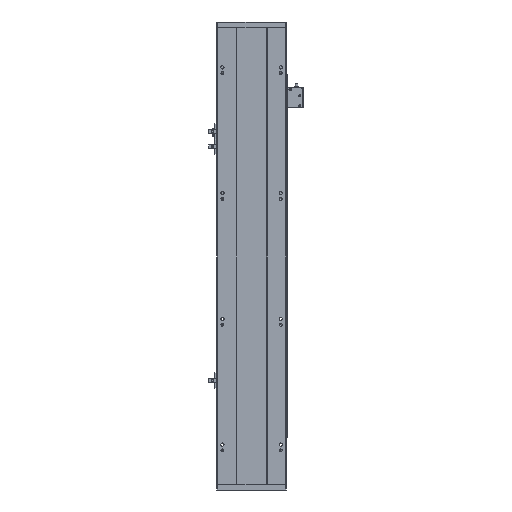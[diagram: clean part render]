
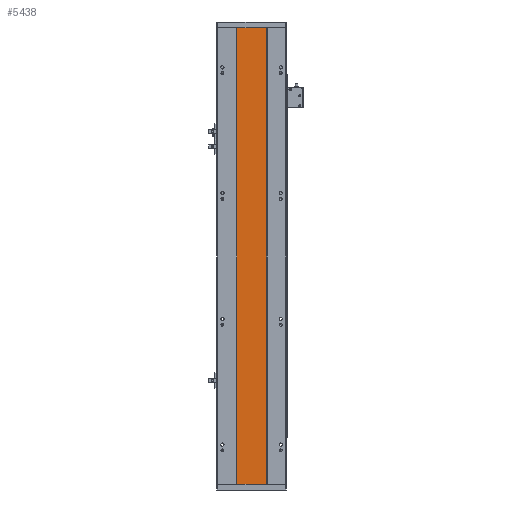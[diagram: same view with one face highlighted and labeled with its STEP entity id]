
A CAD part, front view. The second image highlights one B-rep face of the part: STEP entity #5438.
In plain terms, the highlighted planar face has unit normal (0, -1, 0).
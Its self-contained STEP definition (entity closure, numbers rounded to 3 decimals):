
#1949 = CARTESIAN_POINT ( 'NONE',  ( 133.07, 115.96, 784. ) ) ;
#2819 = CARTESIAN_POINT ( 'NONE',  ( 133.07, 115.96, 0. ) ) ;
#3168 = ORIENTED_EDGE ( 'NONE', *, *, #21043, .F. ) ;
#3393 = ORIENTED_EDGE ( 'NONE', *, *, #18414, .T. ) ;
#4606 = ORIENTED_EDGE ( 'NONE', *, *, #15097, .F. ) ;
#5438 = ADVANCED_FACE ( 'NONE', ( #7348 ), #17131, .F. ) ;
#5482 = DIRECTION ( 'NONE',  ( 1., 0., 0. ) ) ;
#5574 = DIRECTION ( 'NONE',  ( -1., 0., 0. ) ) ;
#5808 = DIRECTION ( 'NONE',  ( 1., 0., 0. ) ) ;
#6454 = EDGE_LOOP ( 'NONE', ( #9419, #3168, #4606, #3393 ) ) ;
#6649 = CARTESIAN_POINT ( 'NONE',  ( 183.063, 115.96, 784. ) ) ;
#6775 = AXIS2_PLACEMENT_3D ( 'NONE', #24659, #17307, #5574 ) ;
#7020 = DIRECTION ( 'NONE',  ( 0., 0., -1. ) ) ;
#7139 = VECTOR ( 'NONE', #19175, 1000. ) ;
#7348 = FACE_OUTER_BOUND ( 'NONE', #6454, .T. ) ;
#7727 = VERTEX_POINT ( 'NONE', #9899 ) ;
#9419 = ORIENTED_EDGE ( 'NONE', *, *, #15736, .T. ) ;
#9899 = CARTESIAN_POINT ( 'NONE',  ( 183.063, 115.96, 0. ) ) ;
#12433 = VECTOR ( 'NONE', #7020, 1000. ) ;
#12970 = LINE ( 'NONE', #17372, #18717 ) ;
#14183 = VECTOR ( 'NONE', #5482, 1000. ) ;
#15097 = EDGE_CURVE ( 'NONE', #15212, #19851, #23820, .T. ) ;
#15212 = VERTEX_POINT ( 'NONE', #19146 ) ;
#15315 = VERTEX_POINT ( 'NONE', #2819 ) ;
#15736 = EDGE_CURVE ( 'NONE', #15315, #7727, #12970, .T. ) ;
#17131 = PLANE ( 'NONE',  #6775 ) ;
#17307 = DIRECTION ( 'NONE',  ( 0., 1., 0. ) ) ;
#17372 = CARTESIAN_POINT ( 'NONE',  ( 0., 115.96, 0. ) ) ;
#17610 = LINE ( 'NONE', #24241, #12433 ) ;
#18414 = EDGE_CURVE ( 'NONE', #15212, #15315, #18884, .T. ) ;
#18717 = VECTOR ( 'NONE', #5808, 1000. ) ;
#18884 = LINE ( 'NONE', #1949, #7139 ) ;
#19146 = CARTESIAN_POINT ( 'NONE',  ( 133.07, 115.96, 784. ) ) ;
#19175 = DIRECTION ( 'NONE',  ( 0., 0., -1. ) ) ;
#19851 = VERTEX_POINT ( 'NONE', #6649 ) ;
#21043 = EDGE_CURVE ( 'NONE', #19851, #7727, #17610, .T. ) ;
#23820 = LINE ( 'NONE', #24407, #14183 ) ;
#24241 = CARTESIAN_POINT ( 'NONE',  ( 183.063, 115.96, 784. ) ) ;
#24407 = CARTESIAN_POINT ( 'NONE',  ( 0., 115.96, 784. ) ) ;
#24659 = CARTESIAN_POINT ( 'NONE',  ( 0., 115.96, 784. ) ) ;
